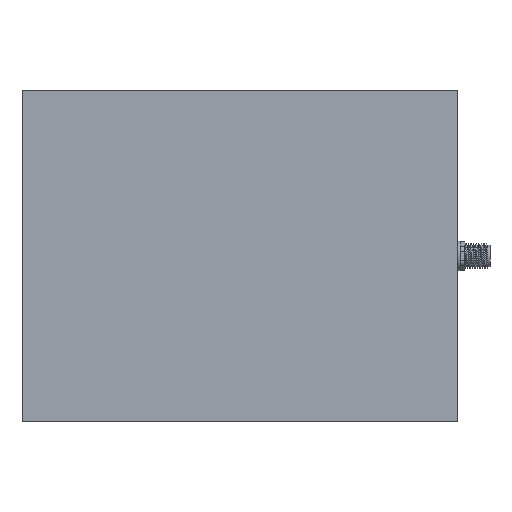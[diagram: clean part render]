
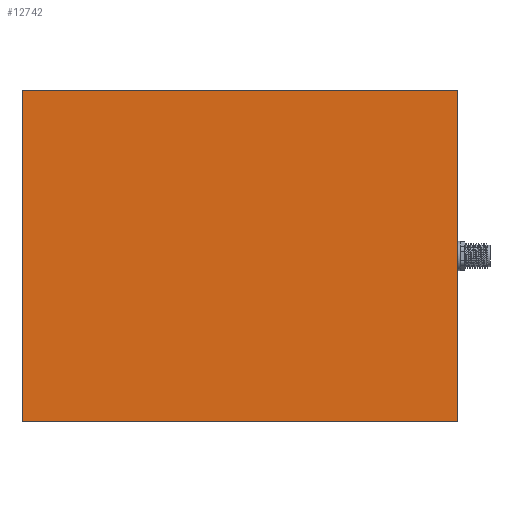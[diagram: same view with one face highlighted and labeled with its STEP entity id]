
A CAD part, top view. The second image highlights one B-rep face of the part: STEP entity #12742.
In plain terms, the highlighted planar face has unit normal (0, 0, 1).
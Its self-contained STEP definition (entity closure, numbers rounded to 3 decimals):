
#685 = DIRECTION ( 'NONE',  ( 1., 0., 0. ) ) ;
#768 = CARTESIAN_POINT ( 'NONE',  ( 209., -5., 21.06 ) ) ;
#782 = DIRECTION ( 'NONE',  ( 0., -1., 0. ) ) ;
#1172 = VERTEX_POINT ( 'NONE', #7044 ) ;
#1440 = ORIENTED_EDGE ( 'NONE', *, *, #9078, .T. ) ;
#2014 = DIRECTION ( 'NONE',  ( 0., 0., -1. ) ) ;
#2291 = CARTESIAN_POINT ( 'NONE',  ( -5., 158., 21.06 ) ) ;
#2729 = VECTOR ( 'NONE', #12725, 1000. ) ;
#3552 = CARTESIAN_POINT ( 'NONE',  ( 209., -5., 21.06 ) ) ;
#4439 = FACE_OUTER_BOUND ( 'NONE', #6373, .T. ) ;
#4537 = CARTESIAN_POINT ( 'NONE',  ( -5., -5., 21.06 ) ) ;
#4646 = ORIENTED_EDGE ( 'NONE', *, *, #7410, .T. ) ;
#5541 = ORIENTED_EDGE ( 'NONE', *, *, #14109, .T. ) ;
#6373 = EDGE_LOOP ( 'NONE', ( #4646, #1440, #5541, #8221 ) ) ;
#7044 = CARTESIAN_POINT ( 'NONE',  ( -5., -5., 21.06 ) ) ;
#7102 = VERTEX_POINT ( 'NONE', #3552 ) ;
#7363 = VECTOR ( 'NONE', #13205, 1000. ) ;
#7410 = EDGE_CURVE ( 'NONE', #1172, #7102, #7892, .T. ) ;
#7476 = VERTEX_POINT ( 'NONE', #11338 ) ;
#7892 = LINE ( 'NONE', #768, #9866 ) ;
#8221 = ORIENTED_EDGE ( 'NONE', *, *, #9777, .T. ) ;
#9078 = EDGE_CURVE ( 'NONE', #7102, #7476, #14223, .T. ) ;
#9357 = LINE ( 'NONE', #15248, #2729 ) ;
#9705 = AXIS2_PLACEMENT_3D ( 'NONE', #15267, #2014, #13997 ) ;
#9777 = EDGE_CURVE ( 'NONE', #13548, #1172, #11737, .T. ) ;
#9866 = VECTOR ( 'NONE', #685, 1000. ) ;
#10164 = VECTOR ( 'NONE', #782, 1000. ) ;
#10760 = CARTESIAN_POINT ( 'NONE',  ( 209., 158., 21.06 ) ) ;
#11338 = CARTESIAN_POINT ( 'NONE',  ( 209., 158., 21.06 ) ) ;
#11737 = LINE ( 'NONE', #4537, #10164 ) ;
#12725 = DIRECTION ( 'NONE',  ( -1., 0., 0. ) ) ;
#12742 = ADVANCED_FACE ( 'NONE', ( #4439 ), #15340, .F. ) ;
#13205 = DIRECTION ( 'NONE',  ( 0., 1., 0. ) ) ;
#13548 = VERTEX_POINT ( 'NONE', #2291 ) ;
#13997 = DIRECTION ( 'NONE',  ( -1., 0., 0. ) ) ;
#14109 = EDGE_CURVE ( 'NONE', #7476, #13548, #9357, .T. ) ;
#14223 = LINE ( 'NONE', #10760, #7363 ) ;
#15248 = CARTESIAN_POINT ( 'NONE',  ( -5., 158., 21.06 ) ) ;
#15267 = CARTESIAN_POINT ( 'NONE',  ( 0., 0., 21.06 ) ) ;
#15340 = PLANE ( 'NONE',  #9705 ) ;
